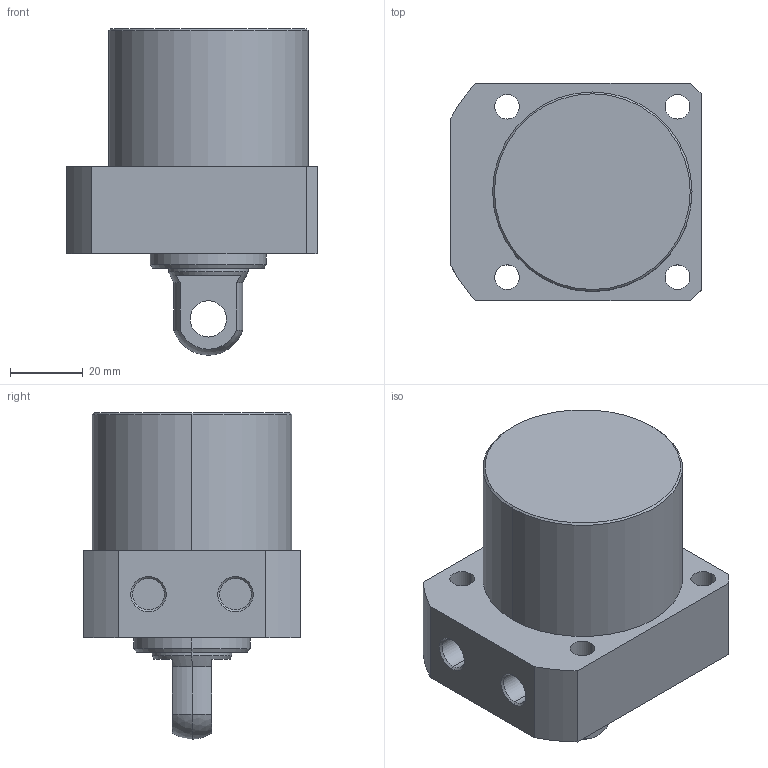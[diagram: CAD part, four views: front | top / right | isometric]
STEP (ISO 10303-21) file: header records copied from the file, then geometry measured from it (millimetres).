
FILE_DESCRIPTION (( 'STEP AP203' ), '1' );
FILE_NAME ('CLLR-055CP-025.STEP', '2019-12-19T08:19:56', ( '' ), ( '' ), 'SwSTEP 2.0', 'SolidWorks 2015', '' );
FILE_SCHEMA (( 'CONFIG_CONTROL_DESIGN' ));
Length unit declared in the file: millimetre
Products named in the file (1): CLLR-055CP-025
Bounding box: 69 x 60 x 90 mm (x, y, z)
Volume: 189530.8 mm3; surface area: 24843.9 mm2
Topology: 1 solids, 1 shells, 59 faces, 139 edges, 89 vertices
Faces by surface type: cylinder 29, plane 18, cone 10, sphere 2
Entity records: 1820 total; most frequent: DIRECTION 329, CARTESIAN_POINT 300, ORIENTED_EDGE 278, EDGE_CURVE 139, AXIS2_PLACEMENT_3D 134, VERTEX_POINT 89, EDGE_LOOP 76, CIRCLE 74
